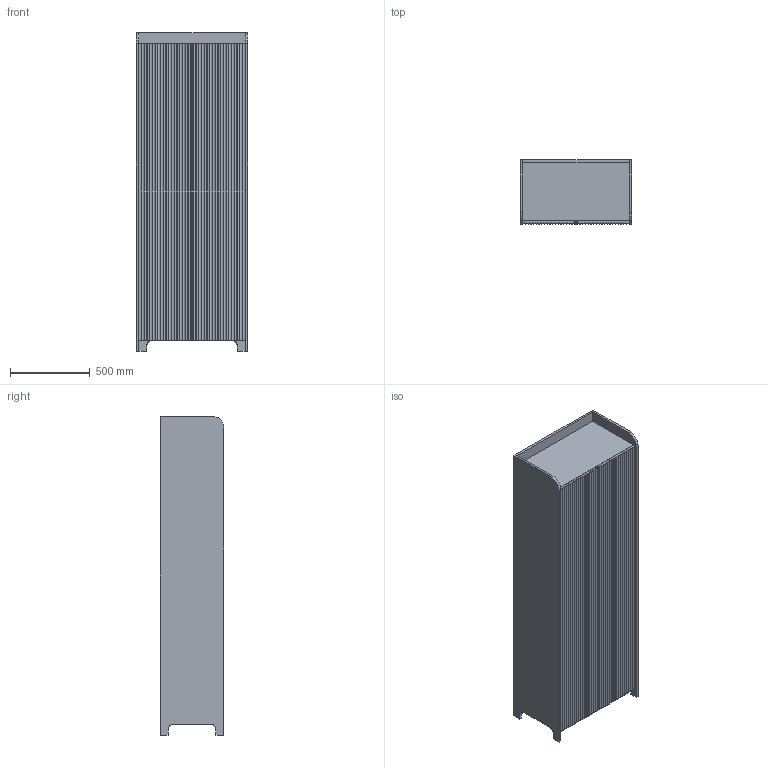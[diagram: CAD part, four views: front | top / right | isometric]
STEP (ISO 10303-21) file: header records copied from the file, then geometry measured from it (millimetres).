
FILE_DESCRIPTION(/* description */ (''),/* implementation_level */ '2;1');
FILE_NAME(/* name */ 'Sill Cupboards_Tall_3D',/* time_stamp */ '2021-05-03T14:59:40+02:00',/* author */ (''),/* organization */ (''),/* preprocessor_version */ 'ST-DEVELOPER v16.5',/* originating_system */ '',/* authorisation */ '');
FILE_SCHEMA (('CONFIG_CONTROL_DESIGN'));
Length unit declared in the file: millimetre
Products named in the file (1): Document
Bounding box: 700 x 400 x 2000 mm (x, y, z)
Volume: 88821964.3 mm3; surface area: 11897971.9 mm2
Topology: 11 solids, 11 shells, 166 faces, 432 edges, 288 vertices
Faces by surface type: plane 116, bspline 42, cylinder 8
Entity records: 4760 total; most frequent: CARTESIAN_POINT 2066, ORIENTED_EDGE 864, EDGE_CURVE 432, VERTEX_POINT 288, ADVANCED_FACE 166, FACE_OUTER_BOUND 166, EDGE_LOOP 166, B_SPLINE_CURVE_WITH_KNOTS 131
